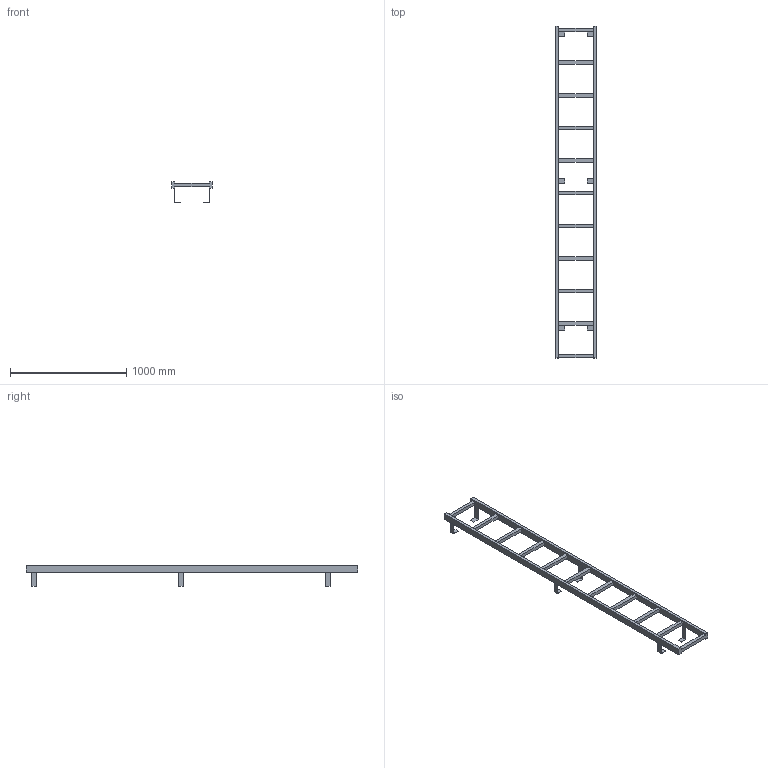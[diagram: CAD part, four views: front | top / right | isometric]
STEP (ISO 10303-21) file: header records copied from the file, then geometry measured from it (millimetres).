
FILE_DESCRIPTION((''),'2;1');
FILE_NAME('017_000109','2017-06-12T',('set'),('HUBER SE'),'PRO/ENGINEER BY PARAMETRIC TECHNOLOGY CORPORATION, 2015280','PRO/ENGINEER BY PARAMETRIC TECHNOLOGY CORPORATION, 2015280','');
FILE_SCHEMA(('CONFIG_CONTROL_DESIGN'));
Length unit declared in the file: millimetre
Products named in the file (1): 017_000109
Bounding box: 350 x 2850 x 178.5 mm (x, y, z)
Volume: 11189940 mm3; surface area: 1406052 mm2
Topology: 1 solids, 1 shells, 102 faces, 397 edges, 293 vertices
Faces by surface type: plane 102
Entity records: 4018 total; most frequent: CARTESIAN_POINT 844, ORIENTED_EDGE 592, DIRECTION 578, VECTOR 350, LINE 350, EDGE_CURVE 296, VERTEX_POINT 192, EDGE_LOOP 118
